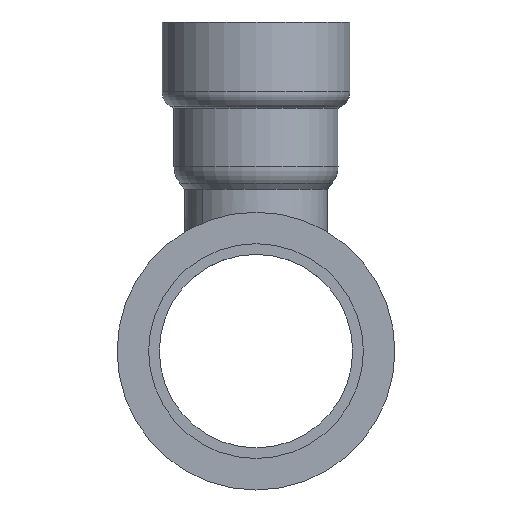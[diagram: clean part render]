
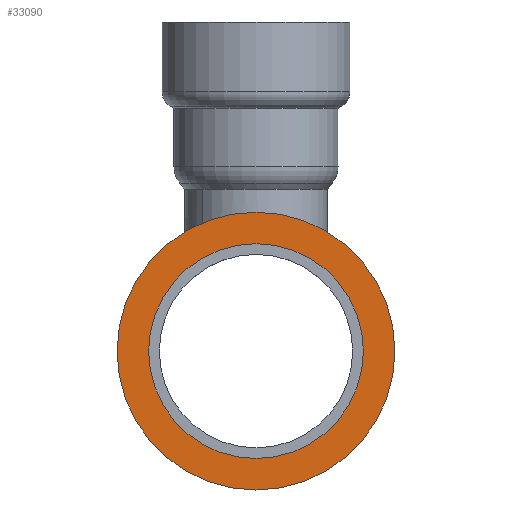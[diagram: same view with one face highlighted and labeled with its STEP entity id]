
A CAD part, left-side view. The second image highlights one B-rep face of the part: STEP entity #33090.
In plain terms, the highlighted planar face has unit normal (-1, 0, 0).
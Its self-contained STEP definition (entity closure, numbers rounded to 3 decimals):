
#4170=CARTESIAN_POINT('',(55.082,52.567,-21.65));
#4180=VERTEX_POINT('',#4170);
#4210=CARTESIAN_POINT('',(55.082,52.567,0.));
#4220=DIRECTION('',(1.,0.,0.));
#4230=DIRECTION('',(0.,0.,1.));
#4240=AXIS2_PLACEMENT_3D('',#4210,#4220,#4230);
#4250=CIRCLE('',#4240,21.65);
#4260=CARTESIAN_POINT('',(55.082,52.567,21.65));
#4270=VERTEX_POINT('',#4260);
#4280=EDGE_CURVE('',#4180,#4270,#4250,.T.);
#32840=CARTESIAN_POINT('',(55.082,52.567,26.425));
#32850=DIRECTION('',(-1.,0.,0.));
#32860=DIRECTION('',(0.,0.,1.));
#32870=AXIS2_PLACEMENT_3D('',#32840,#32850,#32860);
#32880=PLANE('',#32870);
#32890=EDGE_CURVE('',#4270,#4180,#4250,.T.);
#32900=ORIENTED_EDGE('',*,*,#32890,.T.);
#32910=ORIENTED_EDGE('',*,*,#4280,.T.);
#32920=EDGE_LOOP('',(#32910,#32900));
#32930=FACE_BOUND('',#32920,.T.);
#32940=CARTESIAN_POINT('',(55.082,52.567,0.));
#32950=DIRECTION('',(1.,0.,0.));
#32960=DIRECTION('',(0.,0.,1.));
#32970=AXIS2_PLACEMENT_3D('',#32940,#32950,#32960);
#32980=CIRCLE('',#32970,28.);
#32990=CARTESIAN_POINT('',(55.082,52.567,28.));
#33000=VERTEX_POINT('',#32990);
#33010=CARTESIAN_POINT('',(55.082,52.567,-28.));
#33020=VERTEX_POINT('',#33010);
#33030=EDGE_CURVE('',#33000,#33020,#32980,.T.);
#33040=ORIENTED_EDGE('',*,*,#33030,.F.);
#33050=EDGE_CURVE('',#33020,#33000,#32980,.T.);
#33060=ORIENTED_EDGE('',*,*,#33050,.F.);
#33070=EDGE_LOOP('',(#33060,#33040));
#33080=FACE_OUTER_BOUND('',#33070,.T.);
#33090=ADVANCED_FACE('',(#32930,#33080),#32880,.T.);
